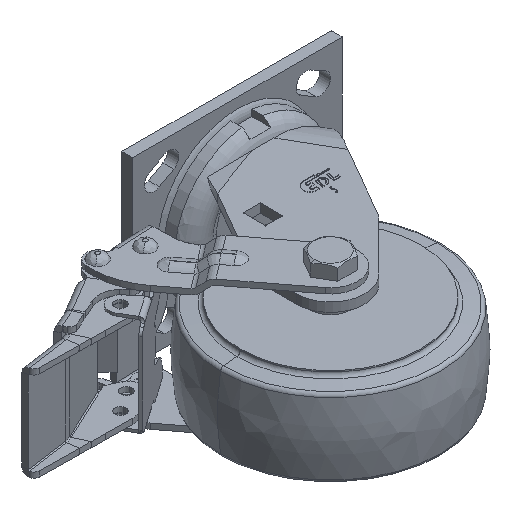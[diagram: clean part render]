
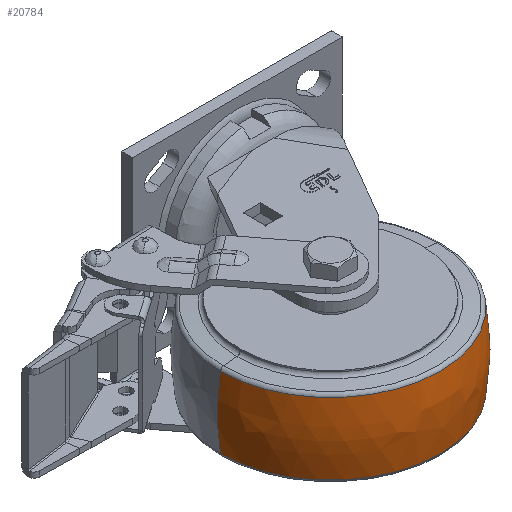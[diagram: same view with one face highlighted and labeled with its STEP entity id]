
A CAD part, isometric view. The second image highlights one B-rep face of the part: STEP entity #20784.
In plain terms, the highlighted free-form (B-spline) face has degree [3, 3] with [7, 4] control points.
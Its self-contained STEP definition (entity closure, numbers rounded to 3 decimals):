
#20356=CARTESIAN_POINT('',(0.,-64.241,0.));
#20357=DIRECTION('',(0.,0.,1.));
#20358=DIRECTION('',(0.156,0.988,0.));
#20359=AXIS2_PLACEMENT_3D('',#20356,#20357,#20358);
#20361=CARTESIAN_POINT('',(0.,64.241,0.));
#20362=DIRECTION('',(0.,0.,-1.));
#20363=DIRECTION('',(0.156,-0.988,0.));
#20364=AXIS2_PLACEMENT_3D('',#20361,#20362,#20363);
#20366=CARTESIAN_POINT('',(19.804,0.,0.));
#20367=DIRECTION('',(-1.,0.,0.));
#20368=DIRECTION('',(0.,1.,0.));
#20369=AXIS2_PLACEMENT_3D('',#20366,#20367,#20368);
#20381=CARTESIAN_POINT('',(-19.804,0.,0.));
#20382=DIRECTION('',(-1.,0.,0.));
#20383=DIRECTION('',(0.,1.,0.));
#20384=AXIS2_PLACEMENT_3D('',#20381,#20382,#20383);
#20591=CARTESIAN_POINT('',(19.804,60.943,0.));
#20592=VERTEX_POINT('',#20591);
#20593=CARTESIAN_POINT('',(-19.804,60.943,0.));
#20594=VERTEX_POINT('',#20593);
#20623=CARTESIAN_POINT('',(19.804,-60.943,
0.));
#20624=VERTEX_POINT('',#20623);
#20625=CARTESIAN_POINT('',(-19.804,-60.943,
0.));
#20626=VERTEX_POINT('',#20625);
#20748=CARTESIAN_POINT('',(-20.589,-60.696,
3.819));
#20749=CARTESIAN_POINT('',(-6.924,-62.942,
3.96));
#20750=CARTESIAN_POINT('',(6.924,-62.942,
3.96));
#20751=CARTESIAN_POINT('',(20.589,-60.696,
3.819));
#20752=CARTESIAN_POINT('',(-20.589,-63.046,
-33.534));
#20753=CARTESIAN_POINT('',(-6.924,-65.379,
-34.774));
#20754=CARTESIAN_POINT('',(6.924,-65.379,
-34.774));
#20755=CARTESIAN_POINT('',(20.589,-63.046,
-33.534));
#20756=CARTESIAN_POINT('',(-20.589,-37.426,
-60.816));
#20757=CARTESIAN_POINT('',(-6.924,-38.811,
-63.066));
#20758=CARTESIAN_POINT('',(6.924,-38.811,
-63.066));
#20759=CARTESIAN_POINT('',(20.589,-37.426,
-60.816));
#20760=CARTESIAN_POINT('',(-20.589,0.,
-60.816));
#20761=CARTESIAN_POINT('',(-6.924,0.,
-63.066));
#20762=CARTESIAN_POINT('',(6.924,0.,
-63.066));
#20763=CARTESIAN_POINT('',(20.589,0.,
-60.816));
#20764=CARTESIAN_POINT('',(-20.589,37.426,
-60.816));
#20765=CARTESIAN_POINT('',(-6.924,38.811,
-63.066));
#20766=CARTESIAN_POINT('',(6.924,38.811,
-63.066));
#20767=CARTESIAN_POINT('',(20.589,37.426,
-60.816));
#20768=CARTESIAN_POINT('',(-20.589,63.046,
-33.534));
#20769=CARTESIAN_POINT('',(-6.924,65.379,
-34.774));
#20770=CARTESIAN_POINT('',(6.924,65.379,
-34.774));
#20771=CARTESIAN_POINT('',(20.589,63.046,
-33.534));
#20772=CARTESIAN_POINT('',(-20.589,60.696,
3.819));
#20773=CARTESIAN_POINT('',(-6.924,62.942,
3.96));
#20774=CARTESIAN_POINT('',(6.924,62.942,3.96));
#20775=CARTESIAN_POINT('',(20.589,60.696,3.819));
#20776=(BOUNDED_SURFACE()B_SPLINE_SURFACE(3,3,((#20748,#20749,#20750,#20751),(
#20752,#20753,#20754,#20755),(#20756,#20757,#20758,#20759),(#20760,#20761,
#20762,#20763),(#20764,#20765,#20766,#20767),(#20768,#20769,#20770,#20771),(
#20772,#20773,#20774,#20775)),.UNSPECIFIED.,.F.,.F.,.F.)B_SPLINE_SURFACE_WITH_KNOTS((4,3,4),(4,4),(0.,1.,2.),(0.,1.),.UNSPECIFIED.)GEOMETRIC_REPRESENTATION_ITEM()RATIONAL_B_SPLINE_SURFACE(((1.195,1.185,
1.185,1.195),(0.944,0.935,
0.935,0.944),(0.944,0.935,
0.935,0.944),(1.195,1.185,
1.185,1.195),(0.944,0.935,
0.935,0.944),(0.944,0.935,
0.935,0.944),(1.195,1.185,
1.185,1.195)))REPRESENTATION_ITEM('')SURFACE());
#20777=ORIENTED_EDGE('',*,*,#20738,.T.);
#20779=ORIENTED_EDGE('',*,*,#20778,.T.);
#20780=ORIENTED_EDGE('',*,*,#20741,.F.);
#20781=ORIENTED_EDGE('',*,*,#20688,.F.);
#20782=EDGE_LOOP('',(#20777,#20779,#20780,#20781));
#20783=FACE_OUTER_BOUND('',#20782,.F.);
#20360=CIRCLE('',#20359,126.741);
#20365=CIRCLE('',#20364,126.741);
#20370=CIRCLE('',#20369,60.943);
#20385=CIRCLE('',#20384,60.943);
#20688=EDGE_CURVE('',#20592,#20624,#20370,.T.);
#20738=EDGE_CURVE('',#20592,#20594,#20360,.T.);
#20741=EDGE_CURVE('',#20624,#20626,#20365,.T.);
#20778=EDGE_CURVE('',#20594,#20626,#20385,.T.);
#20784=ADVANCED_FACE('',(#20783),#20776,.T.);
